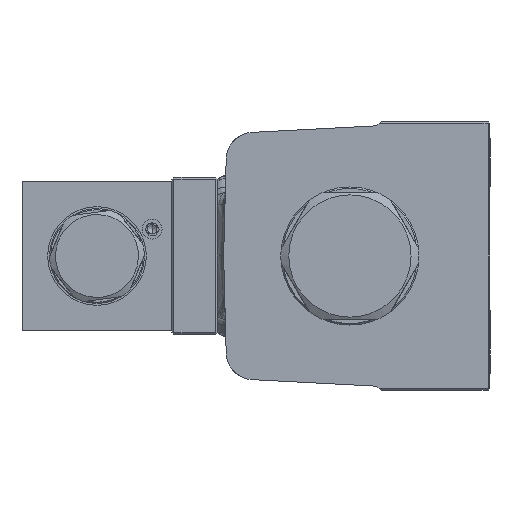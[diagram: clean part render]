
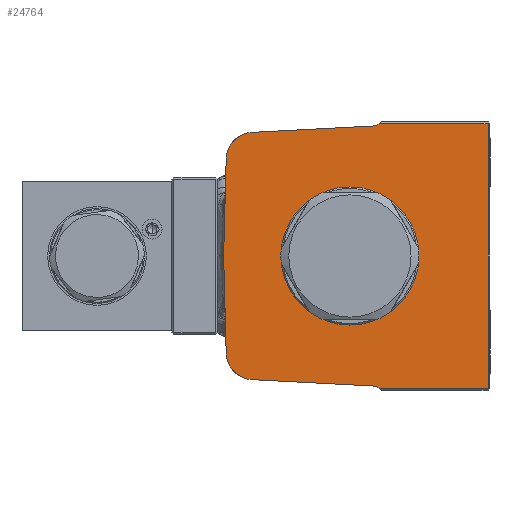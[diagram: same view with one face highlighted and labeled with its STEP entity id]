
A CAD part, left-side view. The second image highlights one B-rep face of the part: STEP entity #24764.
In plain terms, the highlighted planar face has unit normal (-1, 0, 0).
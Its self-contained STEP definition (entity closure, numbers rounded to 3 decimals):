
#543 = DIRECTION ( 'NONE',  ( 0., 0., 1. ) ) ;
#1754 = ORIENTED_EDGE ( 'NONE', *, *, #4626, .F. ) ;
#1808 = CARTESIAN_POINT ( 'NONE',  ( -46.6, 24.36, 24.347 ) ) ;
#1844 = AXIS2_PLACEMENT_3D ( 'NONE', #57634, #34410, #543 ) ;
#2271 = EDGE_LOOP ( 'NONE', ( #10166, #15982 ) ) ;
#3293 = ORIENTED_EDGE ( 'NONE', *, *, #40871, .F. ) ;
#4626 = EDGE_CURVE ( 'NONE', #56369, #49904, #50172, .T. ) ;
#4642 = CARTESIAN_POINT ( 'NONE',  ( -46.6, 31.978, 0.837 ) ) ;
#5185 = DIRECTION ( 'NONE',  ( -1., 0., 0. ) ) ;
#5396 = DIRECTION ( 'NONE',  ( 0., 0., 1. ) ) ;
#5506 = CARTESIAN_POINT ( 'NONE',  ( -46.6, 32., 0. ) ) ;
#6222 = VERTEX_POINT ( 'NONE', #38174 ) ;
#6427 = CARTESIAN_POINT ( 'NONE',  ( -46.6, -5.693, 35.936 ) ) ;
#7154 = FACE_OUTER_BOUND ( 'NONE', #73294, .T. ) ;
#7838 = LINE ( 'NONE', #68321, #31433 ) ;
#8062 = ORIENTED_EDGE ( 'NONE', *, *, #51133, .T. ) ;
#9925 = EDGE_CURVE ( 'NONE', #40668, #22368, #7838, .T. ) ;
#10015 = ORIENTED_EDGE ( 'NONE', *, *, #41474, .T. ) ;
#10063 = VECTOR ( 'NONE', #52144, 1000. ) ;
#10166 = ORIENTED_EDGE ( 'NONE', *, *, #10693, .F. ) ;
#10203 = DIRECTION ( 'NONE',  ( 0., 1., 0. ) ) ;
#10639 = CARTESIAN_POINT ( 'NONE',  ( -46.6, 0., 0. ) ) ;
#10693 = EDGE_CURVE ( 'NONE', #61683, #63205, #60699, .T. ) ;
#11435 = CARTESIAN_POINT ( 'NONE',  ( -46.6, -16., 0. ) ) ;
#11546 = CARTESIAN_POINT ( 'NONE',  ( -46.6, 31.978, -0.837 ) ) ;
#11862 = DIRECTION ( 'NONE',  ( 0., 0., 1. ) ) ;
#12644 = CARTESIAN_POINT ( 'NONE',  ( -46.6, -35., -34. ) ) ;
#12852 = VERTEX_POINT ( 'NONE', #51282 ) ;
#15846 = AXIS2_PLACEMENT_3D ( 'NONE', #69306, #34564, #63642 ) ;
#15879 = CIRCLE ( 'NONE', #58231, 3. ) ;
#15982 = ORIENTED_EDGE ( 'NONE', *, *, #42131, .F. ) ;
#17226 = DIRECTION ( 'NONE',  ( 0., -0.999, -0.052 ) ) ;
#17725 = DIRECTION ( 'NONE',  ( -1., 0., 0. ) ) ;
#19337 = VERTEX_POINT ( 'NONE', #54093 ) ;
#19342 = EDGE_CURVE ( 'NONE', #65762, #30992, #28442, .T. ) ;
#22320 = AXIS2_PLACEMENT_3D ( 'NONE', #1808, #17725, #64156 ) ;
#22368 = VERTEX_POINT ( 'NONE', #53053 ) ;
#23724 = ORIENTED_EDGE ( 'NONE', *, *, #64466, .T. ) ;
#24764 = ADVANCED_FACE ( 'NONE', ( #7154, #53426 ), #39978, .T. ) ;
#24944 = VECTOR ( 'NONE', #31322, 1000. ) ;
#25292 = CARTESIAN_POINT ( 'NONE',  ( -46.6, -35., 33.5 ) ) ;
#25696 = AXIS2_PLACEMENT_3D ( 'NONE', #10639, #57747, #74068 ) ;
#26392 = ORIENTED_EDGE ( 'NONE', *, *, #63191, .T. ) ;
#27434 = CARTESIAN_POINT ( 'NONE',  ( -46.6, -35., -33.5 ) ) ;
#28043 = DIRECTION ( 'NONE',  ( 0., -0.026, 1. ) ) ;
#28247 = CARTESIAN_POINT ( 'NONE',  ( -46.6, 31.358, -24.53 ) ) ;
#28442 = CIRCLE ( 'NONE', #22320, 7. ) ;
#28892 = CARTESIAN_POINT ( 'NONE',  ( -46.6, 24.726, 31.337 ) ) ;
#29075 = LINE ( 'NONE', #52620, #61729 ) ;
#29164 = CARTESIAN_POINT ( 'NONE',  ( -46.6, 1.706, -32.544 ) ) ;
#30793 = LINE ( 'NONE', #12644, #67114 ) ;
#30992 = VERTEX_POINT ( 'NONE', #45784 ) ;
#31041 = VECTOR ( 'NONE', #17226, 1000. ) ;
#31107 = EDGE_CURVE ( 'NONE', #22368, #6222, #15879, .T. ) ;
#31322 = DIRECTION ( 'NONE',  ( 0., -1., 0. ) ) ;
#31412 = LINE ( 'NONE', #11546, #10063 ) ;
#31433 = VECTOR ( 'NONE', #10203, 1000. ) ;
#33683 = DIRECTION ( 'NONE',  ( 0., -1., 0. ) ) ;
#34118 = ORIENTED_EDGE ( 'NONE', *, *, #39529, .F. ) ;
#34410 = DIRECTION ( 'NONE',  ( 1., 0., 0. ) ) ;
#34564 = DIRECTION ( 'NONE',  ( 1., 0., 0. ) ) ;
#38174 = CARTESIAN_POINT ( 'NONE',  ( -46.6, -5.85, 32.94 ) ) ;
#39529 = EDGE_CURVE ( 'NONE', #65762, #6222, #29075, .T. ) ;
#39978 = PLANE ( 'NONE',  #63917 ) ;
#40668 = VERTEX_POINT ( 'NONE', #25292 ) ;
#40871 = EDGE_CURVE ( 'NONE', #42174, #30992, #51434, .T. ) ;
#40989 = DIRECTION ( 'NONE',  ( 1., 0., 0. ) ) ;
#41244 = DIRECTION ( 'NONE',  ( -1., 0., 0. ) ) ;
#41474 = EDGE_CURVE ( 'NONE', #12852, #67410, #42230, .T. ) ;
#42121 = CARTESIAN_POINT ( 'NONE',  ( -46.6, 24.726, -31.337 ) ) ;
#42131 = EDGE_CURVE ( 'NONE', #63205, #61683, #60134, .T. ) ;
#42174 = VERTEX_POINT ( 'NONE', #5506 ) ;
#42230 = LINE ( 'NONE', #60679, #24944 ) ;
#42522 = AXIS2_PLACEMENT_3D ( 'NONE', #73991, #5185, #33683 ) ;
#45784 = CARTESIAN_POINT ( 'NONE',  ( -46.6, 31.358, 24.53 ) ) ;
#47285 = DIRECTION ( 'NONE',  ( 0., 0., 1. ) ) ;
#48630 = ORIENTED_EDGE ( 'NONE', *, *, #31107, .T. ) ;
#49600 = VECTOR ( 'NONE', #28043, 1000. ) ;
#49904 = VERTEX_POINT ( 'NONE', #28247 ) ;
#50172 = CIRCLE ( 'NONE', #1844, 7. ) ;
#51133 = EDGE_CURVE ( 'NONE', #67410, #40668, #30793, .T. ) ;
#51282 = CARTESIAN_POINT ( 'NONE',  ( -46.6, -7.444, -33.5 ) ) ;
#51434 = LINE ( 'NONE', #4642, #49600 ) ;
#52144 = DIRECTION ( 'NONE',  ( 0., -0.026, -1. ) ) ;
#52620 = CARTESIAN_POINT ( 'NONE',  ( -46.6, 1.706, 32.544 ) ) ;
#53053 = CARTESIAN_POINT ( 'NONE',  ( -46.6, -7.444, 33.5 ) ) ;
#53426 = FACE_BOUND ( 'NONE', #2271, .T. ) ;
#54093 = CARTESIAN_POINT ( 'NONE',  ( -46.6, -5.85, -32.94 ) ) ;
#54553 = ORIENTED_EDGE ( 'NONE', *, *, #19342, .T. ) ;
#56313 = EDGE_CURVE ( 'NONE', #56369, #19337, #60013, .T. ) ;
#56369 = VERTEX_POINT ( 'NONE', #42121 ) ;
#57634 = CARTESIAN_POINT ( 'NONE',  ( -46.6, 24.36, -24.347 ) ) ;
#57747 = DIRECTION ( 'NONE',  ( -1., 0., 0. ) ) ;
#58231 = AXIS2_PLACEMENT_3D ( 'NONE', #6427, #40989, #5396 ) ;
#58797 = CARTESIAN_POINT ( 'NONE',  ( -46.6, 16., 0. ) ) ;
#60013 = LINE ( 'NONE', #29164, #31041 ) ;
#60134 = CIRCLE ( 'NONE', #25696, 16. ) ;
#60679 = CARTESIAN_POINT ( 'NONE',  ( -46.6, -35.5, -33.5 ) ) ;
#60699 = CIRCLE ( 'NONE', #42522, 16. ) ;
#61683 = VERTEX_POINT ( 'NONE', #11435 ) ;
#61729 = VECTOR ( 'NONE', #63754, 1000. ) ;
#63191 = EDGE_CURVE ( 'NONE', #19337, #12852, #65440, .T. ) ;
#63205 = VERTEX_POINT ( 'NONE', #58797 ) ;
#63642 = DIRECTION ( 'NONE',  ( 0., 0., 1. ) ) ;
#63754 = DIRECTION ( 'NONE',  ( 0., -0.999, 0.052 ) ) ;
#63917 = AXIS2_PLACEMENT_3D ( 'NONE', #70462, #41244, #47285 ) ;
#64073 = ORIENTED_EDGE ( 'NONE', *, *, #9925, .T. ) ;
#64156 = DIRECTION ( 'NONE',  ( 0., 0., 1. ) ) ;
#64466 = EDGE_CURVE ( 'NONE', #42174, #49904, #31412, .T. ) ;
#65440 = CIRCLE ( 'NONE', #15846, 3. ) ;
#65762 = VERTEX_POINT ( 'NONE', #28892 ) ;
#67114 = VECTOR ( 'NONE', #11862, 1000. ) ;
#67410 = VERTEX_POINT ( 'NONE', #27434 ) ;
#67514 = ORIENTED_EDGE ( 'NONE', *, *, #56313, .T. ) ;
#68321 = CARTESIAN_POINT ( 'NONE',  ( -46.6, -35.5, 33.5 ) ) ;
#69306 = CARTESIAN_POINT ( 'NONE',  ( -46.6, -5.693, -35.936 ) ) ;
#70462 = CARTESIAN_POINT ( 'NONE',  ( -46.6, -35.5, -34. ) ) ;
#73294 = EDGE_LOOP ( 'NONE', ( #26392, #10015, #8062, #64073, #48630, #34118, #54553, #3293, #23724, #1754, #67514 ) ) ;
#73991 = CARTESIAN_POINT ( 'NONE',  ( -46.6, 0., 0. ) ) ;
#74068 = DIRECTION ( 'NONE',  ( 0., -1., 0. ) ) ;
